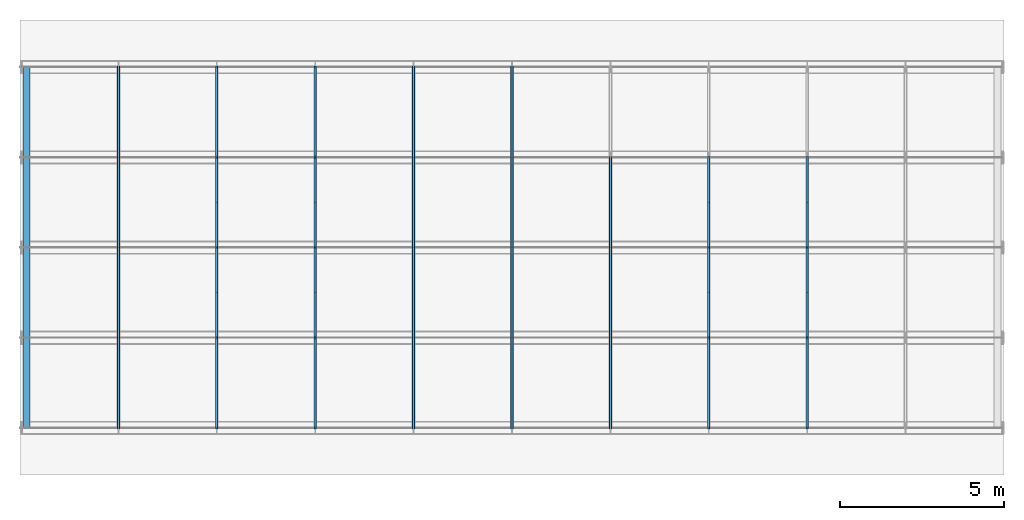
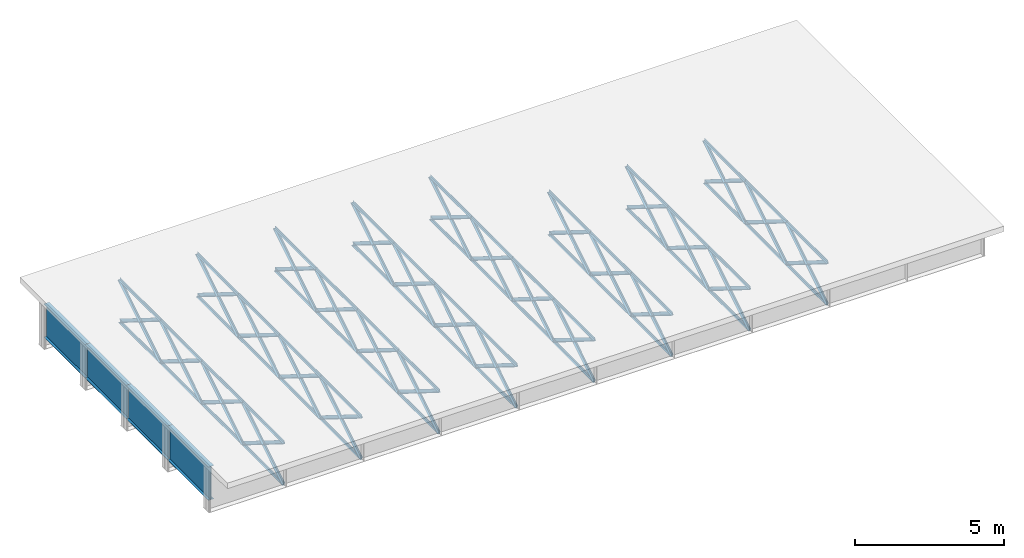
# One storey, part 1 of 17: 120 members.
"""IFC4 building model written with IfcOpenShell, lengths in metres."""

from ifc_helpers import new_model, si_unit, frame, origin, origin_with_axes, origin_2d_with_axis, place, context, subcontext, project, spatial, i_section, l_section, extrude, element, save


model = new_model("IFC4")

# Units and contexts
model_context = context("Model", 3, precision=1e-05, world=origin())
body_context = subcontext(model_context, "Body", "Model", "MODEL_VIEW")
ifc_project = project(units=[si_unit("LENGTHUNIT", "METRE"), si_unit("AREAUNIT", "SQUARE_METRE"), si_unit("VOLUMEUNIT", "CUBIC_METRE"), si_unit("PLANEANGLEUNIT", "RADIAN")], contexts=[model_context])

# Site, building, storey
site_placement = place(None, origin_with_axes())
site = spatial("IfcSite", under=ifc_project, at=site_placement, Name="Default Site")
building_placement = place(site_placement, origin_with_axes())
building = spatial("IfcBuilding", under=site, at=building_placement, Name="Bridge Structure")
storey_placement = place(building_placement, origin_with_axes())
storey = spatial("IfcBuildingStorey", under=building, at=storey_placement, Name="Superstructure")

# Members
for number, where, z_axis, x_axis, name in (
    (1, (0.2, -5.5, 0.1715), (0.0, 1.0, 0.0), (-1.0, 0.0, 0.0), "End Diaphragm"),
    (2, (0.2, -2.75, 0.1715), (0.0, 1.0, 0.0), (-1.0, 0.0, 0.0), "End Diaphragm"),
    (3, (0.2, 0.0, 0.1715), (0.0, 1.0, 0.0), (-1.0, 0.0, 0.0), "End Diaphragm"),
    (4, (0.2, 2.75, 0.1715), (0.0, 1.0, 0.0), (-1.0, 0.0, 0.0), "End Diaphragm"),
):
    element("IfcMember", number, at=place(storey_placement, frame(where, z_axis=z_axis, x_axis=x_axis)), inside=storey, Name=name, context=body_context, shape_type="SweptSolid", body=[
        extrude(i_section(OverallWidth=0.21, OverallDepth=1.371, WebThickness=0.014, FlangeThickness=0.012, at=origin_2d_with_axis()), origin_with_axes(), (0.0, 0.0, 1.0), 2.75),
    ])
for number, where, z_axis, x_axis, name in (
    (5, (3.0, -5.5, 0.857), (0.0, 0.8486564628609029, -0.5289444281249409), (-1.0, 0.0, 0.0), "Diagonal Brace"),
    (6, (3.0, -5.5, -0.857), (0.0, 0.8486564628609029, 0.5289444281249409), (-1.0, 0.0, 0.0), "Diagonal Brace"),
):
    element("IfcMember", number, at=place(storey_placement, frame(where, z_axis=z_axis, x_axis=x_axis)), inside=storey, Name=name, context=body_context, shape_type="SweptSolid", body=[
        extrude(l_section(Depth=0.128, Width=0.085, Thickness=0.008, at=origin_2d_with_axis()), origin_with_axes(), (0.0, 0.0, 1.0), 3.240416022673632),
    ])
for number, where, z_axis, x_axis, name in (
    (7, (3.0, -5.5, -0.857), (0.0, 1.0, 0.0), (-1.0, 0.0, 0.0), "Bottom Chord"),
    (8, (3.0, -5.5, 0.857), (0.0, 1.0, 0.0), (-1.0, 0.0, 0.0), "Top Chord"),
):
    element("IfcMember", number, at=place(storey_placement, frame(where, z_axis=z_axis, x_axis=x_axis)), inside=storey, Name=name, context=body_context, shape_type="SweptSolid", body=[
        extrude(l_section(Depth=0.111, Width=0.068, Thickness=0.008, at=origin_2d_with_axis()), origin_with_axes(), (0.0, 0.0, 1.0), 2.75),
    ])
for number, where, z_axis, x_axis, name in (
    (9, (3.0, -2.75, 0.857), (0.0, 0.8486564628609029, -0.5289444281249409), (-1.0, 0.0, 0.0), "Diagonal Brace"),
    (10, (3.0, -2.75, -0.857), (0.0, 0.8486564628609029, 0.5289444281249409), (-1.0, 0.0, 0.0), "Diagonal Brace"),
):
    element("IfcMember", number, at=place(storey_placement, frame(where, z_axis=z_axis, x_axis=x_axis)), inside=storey, Name=name, context=body_context, shape_type="SweptSolid", body=[
        extrude(l_section(Depth=0.128, Width=0.085, Thickness=0.008, at=origin_2d_with_axis()), origin_with_axes(), (0.0, 0.0, 1.0), 3.240416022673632),
    ])
for number, where, z_axis, x_axis, name in (
    (11, (3.0, -2.75, -0.857), (0.0, 1.0, 0.0), (-1.0, 0.0, 0.0), "Bottom Chord"),
    (12, (3.0, -2.75, 0.857), (0.0, 1.0, 0.0), (-1.0, 0.0, 0.0), "Top Chord"),
):
    element("IfcMember", number, at=place(storey_placement, frame(where, z_axis=z_axis, x_axis=x_axis)), inside=storey, Name=name, context=body_context, shape_type="SweptSolid", body=[
        extrude(l_section(Depth=0.111, Width=0.068, Thickness=0.008, at=origin_2d_with_axis()), origin_with_axes(), (0.0, 0.0, 1.0), 2.75),
    ])
for number, where, z_axis, x_axis, name in (
    (13, (3.0, 0.0, 0.857), (0.0, 0.8486564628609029, -0.5289444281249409), (-1.0, 0.0, 0.0), "Diagonal Brace"),
    (14, (3.0, 0.0, -0.857), (0.0, 0.8486564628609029, 0.5289444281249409), (-1.0, 0.0, 0.0), "Diagonal Brace"),
):
    element("IfcMember", number, at=place(storey_placement, frame(where, z_axis=z_axis, x_axis=x_axis)), inside=storey, Name=name, context=body_context, shape_type="SweptSolid", body=[
        extrude(l_section(Depth=0.128, Width=0.085, Thickness=0.008, at=origin_2d_with_axis()), origin_with_axes(), (0.0, 0.0, 1.0), 3.240416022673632),
    ])
for number, where, z_axis, x_axis, name in (
    (15, (3.0, 0.0, -0.857), (0.0, 1.0, 0.0), (-1.0, 0.0, 0.0), "Bottom Chord"),
    (16, (3.0, 0.0, 0.857), (0.0, 1.0, 0.0), (-1.0, 0.0, 0.0), "Top Chord"),
):
    element("IfcMember", number, at=place(storey_placement, frame(where, z_axis=z_axis, x_axis=x_axis)), inside=storey, Name=name, context=body_context, shape_type="SweptSolid", body=[
        extrude(l_section(Depth=0.111, Width=0.068, Thickness=0.008, at=origin_2d_with_axis()), origin_with_axes(), (0.0, 0.0, 1.0), 2.75),
    ])
for number, where, z_axis, x_axis, name in (
    (17, (3.0, 2.75, 0.857), (0.0, 0.8486564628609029, -0.5289444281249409), (-1.0, 0.0, 0.0), "Diagonal Brace"),
    (18, (3.0, 2.75, -0.857), (0.0, 0.8486564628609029, 0.5289444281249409), (-1.0, 0.0, 0.0), "Diagonal Brace"),
):
    element("IfcMember", number, at=place(storey_placement, frame(where, z_axis=z_axis, x_axis=x_axis)), inside=storey, Name=name, context=body_context, shape_type="SweptSolid", body=[
        extrude(l_section(Depth=0.128, Width=0.085, Thickness=0.008, at=origin_2d_with_axis()), origin_with_axes(), (0.0, 0.0, 1.0), 3.240416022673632),
    ])
for number, where, z_axis, x_axis, name in (
    (19, (3.0, 2.75, -0.857), (0.0, 1.0, 0.0), (-1.0, 0.0, 0.0), "Bottom Chord"),
    (20, (3.0, 2.75, 0.857), (0.0, 1.0, 0.0), (-1.0, 0.0, 0.0), "Top Chord"),
):
    element("IfcMember", number, at=place(storey_placement, frame(where, z_axis=z_axis, x_axis=x_axis)), inside=storey, Name=name, context=body_context, shape_type="SweptSolid", body=[
        extrude(l_section(Depth=0.111, Width=0.068, Thickness=0.008, at=origin_2d_with_axis()), origin_with_axes(), (0.0, 0.0, 1.0), 2.75),
    ])
for number, where, z_axis, x_axis, name in (
    (21, (6.0, -5.5, 0.857), (0.0, 0.8486564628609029, -0.5289444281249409), (-1.0, 0.0, 0.0), "Diagonal Brace"),
    (22, (6.0, -5.5, -0.857), (0.0, 0.8486564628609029, 0.5289444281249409), (-1.0, 0.0, 0.0), "Diagonal Brace"),
):
    element("IfcMember", number, at=place(storey_placement, frame(where, z_axis=z_axis, x_axis=x_axis)), inside=storey, Name=name, context=body_context, shape_type="SweptSolid", body=[
        extrude(l_section(Depth=0.128, Width=0.085, Thickness=0.008, at=origin_2d_with_axis()), origin_with_axes(), (0.0, 0.0, 1.0), 3.240416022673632),
    ])
for number, where, z_axis, x_axis, name in (
    (23, (6.0, -5.5, -0.857), (0.0, 1.0, 0.0), (-1.0, 0.0, 0.0), "Bottom Chord"),
    (24, (6.0, -5.5, 0.857), (0.0, 1.0, 0.0), (-1.0, 0.0, 0.0), "Top Chord"),
):
    element("IfcMember", number, at=place(storey_placement, frame(where, z_axis=z_axis, x_axis=x_axis)), inside=storey, Name=name, context=body_context, shape_type="SweptSolid", body=[
        extrude(l_section(Depth=0.111, Width=0.068, Thickness=0.008, at=origin_2d_with_axis()), origin_with_axes(), (0.0, 0.0, 1.0), 2.75),
    ])
for number, where, z_axis, x_axis, name in (
    (25, (6.0, -2.75, 0.857), (0.0, 0.8486564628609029, -0.5289444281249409), (-1.0, 0.0, 0.0), "Diagonal Brace"),
    (26, (6.0, -2.75, -0.857), (0.0, 0.8486564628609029, 0.5289444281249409), (-1.0, 0.0, 0.0), "Diagonal Brace"),
):
    element("IfcMember", number, at=place(storey_placement, frame(where, z_axis=z_axis, x_axis=x_axis)), inside=storey, Name=name, context=body_context, shape_type="SweptSolid", body=[
        extrude(l_section(Depth=0.128, Width=0.085, Thickness=0.008, at=origin_2d_with_axis()), origin_with_axes(), (0.0, 0.0, 1.0), 3.240416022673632),
    ])
for number, where, z_axis, x_axis, name in (
    (27, (6.0, -2.75, -0.857), (0.0, 1.0, 0.0), (-1.0, 0.0, 0.0), "Bottom Chord"),
    (28, (6.0, -2.75, 0.857), (0.0, 1.0, 0.0), (-1.0, 0.0, 0.0), "Top Chord"),
):
    element("IfcMember", number, at=place(storey_placement, frame(where, z_axis=z_axis, x_axis=x_axis)), inside=storey, Name=name, context=body_context, shape_type="SweptSolid", body=[
        extrude(l_section(Depth=0.111, Width=0.068, Thickness=0.008, at=origin_2d_with_axis()), origin_with_axes(), (0.0, 0.0, 1.0), 2.75),
    ])
for number, where, z_axis, x_axis, name in (
    (29, (6.0, 0.0, 0.857), (0.0, 0.8486564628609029, -0.5289444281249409), (-1.0, 0.0, 0.0), "Diagonal Brace"),
    (30, (6.0, 0.0, -0.857), (0.0, 0.8486564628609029, 0.5289444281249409), (-1.0, 0.0, 0.0), "Diagonal Brace"),
):
    element("IfcMember", number, at=place(storey_placement, frame(where, z_axis=z_axis, x_axis=x_axis)), inside=storey, Name=name, context=body_context, shape_type="SweptSolid", body=[
        extrude(l_section(Depth=0.128, Width=0.085, Thickness=0.008, at=origin_2d_with_axis()), origin_with_axes(), (0.0, 0.0, 1.0), 3.240416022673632),
    ])
for number, where, z_axis, x_axis, name in (
    (31, (6.0, 0.0, -0.857), (0.0, 1.0, 0.0), (-1.0, 0.0, 0.0), "Bottom Chord"),
    (32, (6.0, 0.0, 0.857), (0.0, 1.0, 0.0), (-1.0, 0.0, 0.0), "Top Chord"),
):
    element("IfcMember", number, at=place(storey_placement, frame(where, z_axis=z_axis, x_axis=x_axis)), inside=storey, Name=name, context=body_context, shape_type="SweptSolid", body=[
        extrude(l_section(Depth=0.111, Width=0.068, Thickness=0.008, at=origin_2d_with_axis()), origin_with_axes(), (0.0, 0.0, 1.0), 2.75),
    ])
for number, where, z_axis, x_axis, name in (
    (33, (6.0, 2.75, 0.857), (0.0, 0.8486564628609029, -0.5289444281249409), (-1.0, 0.0, 0.0), "Diagonal Brace"),
    (34, (6.0, 2.75, -0.857), (0.0, 0.8486564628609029, 0.5289444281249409), (-1.0, 0.0, 0.0), "Diagonal Brace"),
):
    element("IfcMember", number, at=place(storey_placement, frame(where, z_axis=z_axis, x_axis=x_axis)), inside=storey, Name=name, context=body_context, shape_type="SweptSolid", body=[
        extrude(l_section(Depth=0.128, Width=0.085, Thickness=0.008, at=origin_2d_with_axis()), origin_with_axes(), (0.0, 0.0, 1.0), 3.240416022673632),
    ])
for number, where, z_axis, x_axis, name in (
    (35, (6.0, 2.75, -0.857), (0.0, 1.0, 0.0), (-1.0, 0.0, 0.0), "Bottom Chord"),
    (36, (6.0, 2.75, 0.857), (0.0, 1.0, 0.0), (-1.0, 0.0, 0.0), "Top Chord"),
):
    element("IfcMember", number, at=place(storey_placement, frame(where, z_axis=z_axis, x_axis=x_axis)), inside=storey, Name=name, context=body_context, shape_type="SweptSolid", body=[
        extrude(l_section(Depth=0.111, Width=0.068, Thickness=0.008, at=origin_2d_with_axis()), origin_with_axes(), (0.0, 0.0, 1.0), 2.75),
    ])
for number, where, z_axis, x_axis, name in (
    (37, (9.0, -5.5, 0.857), (0.0, 0.8486564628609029, -0.5289444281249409), (-1.0, 0.0, 0.0), "Diagonal Brace"),
    (38, (9.0, -5.5, -0.857), (0.0, 0.8486564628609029, 0.5289444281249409), (-1.0, 0.0, 0.0), "Diagonal Brace"),
):
    element("IfcMember", number, at=place(storey_placement, frame(where, z_axis=z_axis, x_axis=x_axis)), inside=storey, Name=name, context=body_context, shape_type="SweptSolid", body=[
        extrude(l_section(Depth=0.128, Width=0.085, Thickness=0.008, at=origin_2d_with_axis()), origin_with_axes(), (0.0, 0.0, 1.0), 3.240416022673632),
    ])
for number, where, z_axis, x_axis, name in (
    (39, (9.0, -5.5, -0.857), (0.0, 1.0, 0.0), (-1.0, 0.0, 0.0), "Bottom Chord"),
    (40, (9.0, -5.5, 0.857), (0.0, 1.0, 0.0), (-1.0, 0.0, 0.0), "Top Chord"),
):
    element("IfcMember", number, at=place(storey_placement, frame(where, z_axis=z_axis, x_axis=x_axis)), inside=storey, Name=name, context=body_context, shape_type="SweptSolid", body=[
        extrude(l_section(Depth=0.111, Width=0.068, Thickness=0.008, at=origin_2d_with_axis()), origin_with_axes(), (0.0, 0.0, 1.0), 2.75),
    ])
for number, where, z_axis, x_axis, name in (
    (41, (9.0, -2.75, 0.857), (0.0, 0.8486564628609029, -0.5289444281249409), (-1.0, 0.0, 0.0), "Diagonal Brace"),
    (42, (9.0, -2.75, -0.857), (0.0, 0.8486564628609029, 0.5289444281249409), (-1.0, 0.0, 0.0), "Diagonal Brace"),
):
    element("IfcMember", number, at=place(storey_placement, frame(where, z_axis=z_axis, x_axis=x_axis)), inside=storey, Name=name, context=body_context, shape_type="SweptSolid", body=[
        extrude(l_section(Depth=0.128, Width=0.085, Thickness=0.008, at=origin_2d_with_axis()), origin_with_axes(), (0.0, 0.0, 1.0), 3.240416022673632),
    ])
for number, where, z_axis, x_axis, name in (
    (43, (9.0, -2.75, -0.857), (0.0, 1.0, 0.0), (-1.0, 0.0, 0.0), "Bottom Chord"),
    (44, (9.0, -2.75, 0.857), (0.0, 1.0, 0.0), (-1.0, 0.0, 0.0), "Top Chord"),
):
    element("IfcMember", number, at=place(storey_placement, frame(where, z_axis=z_axis, x_axis=x_axis)), inside=storey, Name=name, context=body_context, shape_type="SweptSolid", body=[
        extrude(l_section(Depth=0.111, Width=0.068, Thickness=0.008, at=origin_2d_with_axis()), origin_with_axes(), (0.0, 0.0, 1.0), 2.75),
    ])
for number, where, z_axis, x_axis, name in (
    (45, (9.0, 0.0, 0.857), (0.0, 0.8486564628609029, -0.5289444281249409), (-1.0, 0.0, 0.0), "Diagonal Brace"),
    (46, (9.0, 0.0, -0.857), (0.0, 0.8486564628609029, 0.5289444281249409), (-1.0, 0.0, 0.0), "Diagonal Brace"),
):
    element("IfcMember", number, at=place(storey_placement, frame(where, z_axis=z_axis, x_axis=x_axis)), inside=storey, Name=name, context=body_context, shape_type="SweptSolid", body=[
        extrude(l_section(Depth=0.128, Width=0.085, Thickness=0.008, at=origin_2d_with_axis()), origin_with_axes(), (0.0, 0.0, 1.0), 3.240416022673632),
    ])
for number, where, z_axis, x_axis, name in (
    (47, (9.0, 0.0, -0.857), (0.0, 1.0, 0.0), (-1.0, 0.0, 0.0), "Bottom Chord"),
    (48, (9.0, 0.0, 0.857), (0.0, 1.0, 0.0), (-1.0, 0.0, 0.0), "Top Chord"),
):
    element("IfcMember", number, at=place(storey_placement, frame(where, z_axis=z_axis, x_axis=x_axis)), inside=storey, Name=name, context=body_context, shape_type="SweptSolid", body=[
        extrude(l_section(Depth=0.111, Width=0.068, Thickness=0.008, at=origin_2d_with_axis()), origin_with_axes(), (0.0, 0.0, 1.0), 2.75),
    ])
for number, where, z_axis, x_axis, name in (
    (49, (9.0, 2.75, 0.857), (0.0, 0.8486564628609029, -0.5289444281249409), (-1.0, 0.0, 0.0), "Diagonal Brace"),
    (50, (9.0, 2.75, -0.857), (0.0, 0.8486564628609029, 0.5289444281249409), (-1.0, 0.0, 0.0), "Diagonal Brace"),
):
    element("IfcMember", number, at=place(storey_placement, frame(where, z_axis=z_axis, x_axis=x_axis)), inside=storey, Name=name, context=body_context, shape_type="SweptSolid", body=[
        extrude(l_section(Depth=0.128, Width=0.085, Thickness=0.008, at=origin_2d_with_axis()), origin_with_axes(), (0.0, 0.0, 1.0), 3.240416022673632),
    ])
for number, where, z_axis, x_axis, name in (
    (51, (9.0, 2.75, -0.857), (0.0, 1.0, 0.0), (-1.0, 0.0, 0.0), "Bottom Chord"),
    (52, (9.0, 2.75, 0.857), (0.0, 1.0, 0.0), (-1.0, 0.0, 0.0), "Top Chord"),
):
    element("IfcMember", number, at=place(storey_placement, frame(where, z_axis=z_axis, x_axis=x_axis)), inside=storey, Name=name, context=body_context, shape_type="SweptSolid", body=[
        extrude(l_section(Depth=0.111, Width=0.068, Thickness=0.008, at=origin_2d_with_axis()), origin_with_axes(), (0.0, 0.0, 1.0), 2.75),
    ])
for number, where, z_axis, x_axis, name in (
    (53, (12.0, -5.5, 0.857), (0.0, 0.8486564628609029, -0.5289444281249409), (-1.0, 0.0, 0.0), "Diagonal Brace"),
    (54, (12.0, -5.5, -0.857), (0.0, 0.8486564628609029, 0.5289444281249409), (-1.0, 0.0, 0.0), "Diagonal Brace"),
):
    element("IfcMember", number, at=place(storey_placement, frame(where, z_axis=z_axis, x_axis=x_axis)), inside=storey, Name=name, context=body_context, shape_type="SweptSolid", body=[
        extrude(l_section(Depth=0.128, Width=0.085, Thickness=0.008, at=origin_2d_with_axis()), origin_with_axes(), (0.0, 0.0, 1.0), 3.240416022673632),
    ])
for number, where, z_axis, x_axis, name in (
    (55, (12.0, -5.5, -0.857), (0.0, 1.0, 0.0), (-1.0, 0.0, 0.0), "Bottom Chord"),
    (56, (12.0, -5.5, 0.857), (0.0, 1.0, 0.0), (-1.0, 0.0, 0.0), "Top Chord"),
):
    element("IfcMember", number, at=place(storey_placement, frame(where, z_axis=z_axis, x_axis=x_axis)), inside=storey, Name=name, context=body_context, shape_type="SweptSolid", body=[
        extrude(l_section(Depth=0.111, Width=0.068, Thickness=0.008, at=origin_2d_with_axis()), origin_with_axes(), (0.0, 0.0, 1.0), 2.75),
    ])
for number, where, z_axis, x_axis, name in (
    (57, (12.0, -2.75, 0.857), (0.0, 0.8486564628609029, -0.5289444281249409), (-1.0, 0.0, 0.0), "Diagonal Brace"),
    (58, (12.0, -2.75, -0.857), (0.0, 0.8486564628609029, 0.5289444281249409), (-1.0, 0.0, 0.0), "Diagonal Brace"),
):
    element("IfcMember", number, at=place(storey_placement, frame(where, z_axis=z_axis, x_axis=x_axis)), inside=storey, Name=name, context=body_context, shape_type="SweptSolid", body=[
        extrude(l_section(Depth=0.128, Width=0.085, Thickness=0.008, at=origin_2d_with_axis()), origin_with_axes(), (0.0, 0.0, 1.0), 3.240416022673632),
    ])
for number, where, z_axis, x_axis, name in (
    (59, (12.0, -2.75, -0.857), (0.0, 1.0, 0.0), (-1.0, 0.0, 0.0), "Bottom Chord"),
    (60, (12.0, -2.75, 0.857), (0.0, 1.0, 0.0), (-1.0, 0.0, 0.0), "Top Chord"),
):
    element("IfcMember", number, at=place(storey_placement, frame(where, z_axis=z_axis, x_axis=x_axis)), inside=storey, Name=name, context=body_context, shape_type="SweptSolid", body=[
        extrude(l_section(Depth=0.111, Width=0.068, Thickness=0.008, at=origin_2d_with_axis()), origin_with_axes(), (0.0, 0.0, 1.0), 2.75),
    ])
for number, where, z_axis, x_axis, name in (
    (61, (12.0, 0.0, 0.857), (0.0, 0.8486564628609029, -0.5289444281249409), (-1.0, 0.0, 0.0), "Diagonal Brace"),
    (62, (12.0, 0.0, -0.857), (0.0, 0.8486564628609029, 0.5289444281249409), (-1.0, 0.0, 0.0), "Diagonal Brace"),
):
    element("IfcMember", number, at=place(storey_placement, frame(where, z_axis=z_axis, x_axis=x_axis)), inside=storey, Name=name, context=body_context, shape_type="SweptSolid", body=[
        extrude(l_section(Depth=0.128, Width=0.085, Thickness=0.008, at=origin_2d_with_axis()), origin_with_axes(), (0.0, 0.0, 1.0), 3.240416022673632),
    ])
for number, where, z_axis, x_axis, name in (
    (63, (12.0, 0.0, -0.857), (0.0, 1.0, 0.0), (-1.0, 0.0, 0.0), "Bottom Chord"),
    (64, (12.0, 0.0, 0.857), (0.0, 1.0, 0.0), (-1.0, 0.0, 0.0), "Top Chord"),
):
    element("IfcMember", number, at=place(storey_placement, frame(where, z_axis=z_axis, x_axis=x_axis)), inside=storey, Name=name, context=body_context, shape_type="SweptSolid", body=[
        extrude(l_section(Depth=0.111, Width=0.068, Thickness=0.008, at=origin_2d_with_axis()), origin_with_axes(), (0.0, 0.0, 1.0), 2.75),
    ])
for number, where, z_axis, x_axis, name in (
    (65, (12.0, 2.75, 0.857), (0.0, 0.8486564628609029, -0.5289444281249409), (-1.0, 0.0, 0.0), "Diagonal Brace"),
    (66, (12.0, 2.75, -0.857), (0.0, 0.8486564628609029, 0.5289444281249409), (-1.0, 0.0, 0.0), "Diagonal Brace"),
):
    element("IfcMember", number, at=place(storey_placement, frame(where, z_axis=z_axis, x_axis=x_axis)), inside=storey, Name=name, context=body_context, shape_type="SweptSolid", body=[
        extrude(l_section(Depth=0.128, Width=0.085, Thickness=0.008, at=origin_2d_with_axis()), origin_with_axes(), (0.0, 0.0, 1.0), 3.240416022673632),
    ])
for number, where, z_axis, x_axis, name in (
    (67, (12.0, 2.75, -0.857), (0.0, 1.0, 0.0), (-1.0, 0.0, 0.0), "Bottom Chord"),
    (68, (12.0, 2.75, 0.857), (0.0, 1.0, 0.0), (-1.0, 0.0, 0.0), "Top Chord"),
):
    element("IfcMember", number, at=place(storey_placement, frame(where, z_axis=z_axis, x_axis=x_axis)), inside=storey, Name=name, context=body_context, shape_type="SweptSolid", body=[
        extrude(l_section(Depth=0.111, Width=0.068, Thickness=0.008, at=origin_2d_with_axis()), origin_with_axes(), (0.0, 0.0, 1.0), 2.75),
    ])
for number, where, z_axis, x_axis, name in (
    (69, (15.0, -5.5, 0.857), (0.0, 0.8486564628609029, -0.5289444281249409), (-1.0, 0.0, 0.0), "Diagonal Brace"),
    (70, (15.0, -5.5, -0.857), (0.0, 0.8486564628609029, 0.5289444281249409), (-1.0, 0.0, 0.0), "Diagonal Brace"),
):
    element("IfcMember", number, at=place(storey_placement, frame(where, z_axis=z_axis, x_axis=x_axis)), inside=storey, Name=name, context=body_context, shape_type="SweptSolid", body=[
        extrude(l_section(Depth=0.128, Width=0.085, Thickness=0.008, at=origin_2d_with_axis()), origin_with_axes(), (0.0, 0.0, 1.0), 3.240416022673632),
    ])
for number, where, z_axis, x_axis, name in (
    (71, (15.0, -5.5, -0.857), (0.0, 1.0, 0.0), (-1.0, 0.0, 0.0), "Bottom Chord"),
    (72, (15.0, -5.5, 0.857), (0.0, 1.0, 0.0), (-1.0, 0.0, 0.0), "Top Chord"),
):
    element("IfcMember", number, at=place(storey_placement, frame(where, z_axis=z_axis, x_axis=x_axis)), inside=storey, Name=name, context=body_context, shape_type="SweptSolid", body=[
        extrude(l_section(Depth=0.111, Width=0.068, Thickness=0.008, at=origin_2d_with_axis()), origin_with_axes(), (0.0, 0.0, 1.0), 2.75),
    ])
for number, where, z_axis, x_axis, name in (
    (73, (15.0, -2.75, 0.857), (0.0, 0.8486564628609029, -0.5289444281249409), (-1.0, 0.0, 0.0), "Diagonal Brace"),
    (74, (15.0, -2.75, -0.857), (0.0, 0.8486564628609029, 0.5289444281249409), (-1.0, 0.0, 0.0), "Diagonal Brace"),
):
    element("IfcMember", number, at=place(storey_placement, frame(where, z_axis=z_axis, x_axis=x_axis)), inside=storey, Name=name, context=body_context, shape_type="SweptSolid", body=[
        extrude(l_section(Depth=0.128, Width=0.085, Thickness=0.008, at=origin_2d_with_axis()), origin_with_axes(), (0.0, 0.0, 1.0), 3.240416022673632),
    ])
for number, where, z_axis, x_axis, name in (
    (75, (15.0, -2.75, -0.857), (0.0, 1.0, 0.0), (-1.0, 0.0, 0.0), "Bottom Chord"),
    (76, (15.0, -2.75, 0.857), (0.0, 1.0, 0.0), (-1.0, 0.0, 0.0), "Top Chord"),
):
    element("IfcMember", number, at=place(storey_placement, frame(where, z_axis=z_axis, x_axis=x_axis)), inside=storey, Name=name, context=body_context, shape_type="SweptSolid", body=[
        extrude(l_section(Depth=0.111, Width=0.068, Thickness=0.008, at=origin_2d_with_axis()), origin_with_axes(), (0.0, 0.0, 1.0), 2.75),
    ])
for number, where, z_axis, x_axis, name in (
    (77, (15.0, 0.0, 0.857), (0.0, 0.8486564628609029, -0.5289444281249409), (-1.0, 0.0, 0.0), "Diagonal Brace"),
    (78, (15.0, 0.0, -0.857), (0.0, 0.8486564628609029, 0.5289444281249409), (-1.0, 0.0, 0.0), "Diagonal Brace"),
):
    element("IfcMember", number, at=place(storey_placement, frame(where, z_axis=z_axis, x_axis=x_axis)), inside=storey, Name=name, context=body_context, shape_type="SweptSolid", body=[
        extrude(l_section(Depth=0.128, Width=0.085, Thickness=0.008, at=origin_2d_with_axis()), origin_with_axes(), (0.0, 0.0, 1.0), 3.240416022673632),
    ])
for number, where, z_axis, x_axis, name in (
    (79, (15.0, 0.0, -0.857), (0.0, 1.0, 0.0), (-1.0, 0.0, 0.0), "Bottom Chord"),
    (80, (15.0, 0.0, 0.857), (0.0, 1.0, 0.0), (-1.0, 0.0, 0.0), "Top Chord"),
):
    element("IfcMember", number, at=place(storey_placement, frame(where, z_axis=z_axis, x_axis=x_axis)), inside=storey, Name=name, context=body_context, shape_type="SweptSolid", body=[
        extrude(l_section(Depth=0.111, Width=0.068, Thickness=0.008, at=origin_2d_with_axis()), origin_with_axes(), (0.0, 0.0, 1.0), 2.75),
    ])
for number, where, z_axis, x_axis, name in (
    (81, (15.0, 2.75, 0.857), (0.0, 0.8486564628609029, -0.5289444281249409), (-1.0, 0.0, 0.0), "Diagonal Brace"),
    (82, (15.0, 2.75, -0.857), (0.0, 0.8486564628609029, 0.5289444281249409), (-1.0, 0.0, 0.0), "Diagonal Brace"),
):
    element("IfcMember", number, at=place(storey_placement, frame(where, z_axis=z_axis, x_axis=x_axis)), inside=storey, Name=name, context=body_context, shape_type="SweptSolid", body=[
        extrude(l_section(Depth=0.128, Width=0.085, Thickness=0.008, at=origin_2d_with_axis()), origin_with_axes(), (0.0, 0.0, 1.0), 3.240416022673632),
    ])
for number, where, z_axis, x_axis, name in (
    (83, (15.0, 2.75, -0.857), (0.0, 1.0, 0.0), (-1.0, 0.0, 0.0), "Bottom Chord"),
    (84, (15.0, 2.75, 0.857), (0.0, 1.0, 0.0), (-1.0, 0.0, 0.0), "Top Chord"),
):
    element("IfcMember", number, at=place(storey_placement, frame(where, z_axis=z_axis, x_axis=x_axis)), inside=storey, Name=name, context=body_context, shape_type="SweptSolid", body=[
        extrude(l_section(Depth=0.111, Width=0.068, Thickness=0.008, at=origin_2d_with_axis()), origin_with_axes(), (0.0, 0.0, 1.0), 2.75),
    ])
for number, where, z_axis, x_axis, name in (
    (85, (18.0, -5.5, 0.857), (0.0, 0.8486564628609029, -0.5289444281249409), (-1.0, 0.0, 0.0), "Diagonal Brace"),
    (86, (18.0, -5.5, -0.857), (0.0, 0.8486564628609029, 0.5289444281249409), (-1.0, 0.0, 0.0), "Diagonal Brace"),
):
    element("IfcMember", number, at=place(storey_placement, frame(where, z_axis=z_axis, x_axis=x_axis)), inside=storey, Name=name, context=body_context, shape_type="SweptSolid", body=[
        extrude(l_section(Depth=0.128, Width=0.085, Thickness=0.008, at=origin_2d_with_axis()), origin_with_axes(), (0.0, 0.0, 1.0), 3.240416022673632),
    ])
for number, where, z_axis, x_axis, name in (
    (87, (18.0, -5.5, -0.857), (0.0, 1.0, 0.0), (-1.0, 0.0, 0.0), "Bottom Chord"),
    (88, (18.0, -5.5, 0.857), (0.0, 1.0, 0.0), (-1.0, 0.0, 0.0), "Top Chord"),
):
    element("IfcMember", number, at=place(storey_placement, frame(where, z_axis=z_axis, x_axis=x_axis)), inside=storey, Name=name, context=body_context, shape_type="SweptSolid", body=[
        extrude(l_section(Depth=0.111, Width=0.068, Thickness=0.008, at=origin_2d_with_axis()), origin_with_axes(), (0.0, 0.0, 1.0), 2.75),
    ])
for number, where, z_axis, x_axis, name in (
    (89, (18.0, -2.75, 0.857), (0.0, 0.8486564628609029, -0.5289444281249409), (-1.0, 0.0, 0.0), "Diagonal Brace"),
    (90, (18.0, -2.75, -0.857), (0.0, 0.8486564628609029, 0.5289444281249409), (-1.0, 0.0, 0.0), "Diagonal Brace"),
):
    element("IfcMember", number, at=place(storey_placement, frame(where, z_axis=z_axis, x_axis=x_axis)), inside=storey, Name=name, context=body_context, shape_type="SweptSolid", body=[
        extrude(l_section(Depth=0.128, Width=0.085, Thickness=0.008, at=origin_2d_with_axis()), origin_with_axes(), (0.0, 0.0, 1.0), 3.240416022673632),
    ])
for number, where, z_axis, x_axis, name in (
    (91, (18.0, -2.75, -0.857), (0.0, 1.0, 0.0), (-1.0, 0.0, 0.0), "Bottom Chord"),
    (92, (18.0, -2.75, 0.857), (0.0, 1.0, 0.0), (-1.0, 0.0, 0.0), "Top Chord"),
):
    element("IfcMember", number, at=place(storey_placement, frame(where, z_axis=z_axis, x_axis=x_axis)), inside=storey, Name=name, context=body_context, shape_type="SweptSolid", body=[
        extrude(l_section(Depth=0.111, Width=0.068, Thickness=0.008, at=origin_2d_with_axis()), origin_with_axes(), (0.0, 0.0, 1.0), 2.75),
    ])
for number, where, z_axis, x_axis, name in (
    (93, (18.0, 0.0, 0.857), (0.0, 0.8486564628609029, -0.5289444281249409), (-1.0, 0.0, 0.0), "Diagonal Brace"),
    (94, (18.0, 0.0, -0.857), (0.0, 0.8486564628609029, 0.5289444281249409), (-1.0, 0.0, 0.0), "Diagonal Brace"),
):
    element("IfcMember", number, at=place(storey_placement, frame(where, z_axis=z_axis, x_axis=x_axis)), inside=storey, Name=name, context=body_context, shape_type="SweptSolid", body=[
        extrude(l_section(Depth=0.128, Width=0.085, Thickness=0.008, at=origin_2d_with_axis()), origin_with_axes(), (0.0, 0.0, 1.0), 3.240416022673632),
    ])
for number, where, z_axis, x_axis, name in (
    (95, (18.0, 0.0, -0.857), (0.0, 1.0, 0.0), (-1.0, 0.0, 0.0), "Bottom Chord"),
    (96, (18.0, 0.0, 0.857), (0.0, 1.0, 0.0), (-1.0, 0.0, 0.0), "Top Chord"),
):
    element("IfcMember", number, at=place(storey_placement, frame(where, z_axis=z_axis, x_axis=x_axis)), inside=storey, Name=name, context=body_context, shape_type="SweptSolid", body=[
        extrude(l_section(Depth=0.111, Width=0.068, Thickness=0.008, at=origin_2d_with_axis()), origin_with_axes(), (0.0, 0.0, 1.0), 2.75),
    ])
for number, where, z_axis, x_axis, name in (
    (97, (21.0, -5.5, 0.857), (0.0, 0.8486564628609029, -0.5289444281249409), (-1.0, 0.0, 0.0), "Diagonal Brace"),
    (98, (21.0, -5.5, -0.857), (0.0, 0.8486564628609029, 0.5289444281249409), (-1.0, 0.0, 0.0), "Diagonal Brace"),
):
    element("IfcMember", number, at=place(storey_placement, frame(where, z_axis=z_axis, x_axis=x_axis)), inside=storey, Name=name, context=body_context, shape_type="SweptSolid", body=[
        extrude(l_section(Depth=0.128, Width=0.085, Thickness=0.008, at=origin_2d_with_axis()), origin_with_axes(), (0.0, 0.0, 1.0), 3.240416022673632),
    ])
for number, where, z_axis, x_axis, name in (
    (99, (21.0, -5.5, -0.857), (0.0, 1.0, 0.0), (-1.0, 0.0, 0.0), "Bottom Chord"),
    (100, (21.0, -5.5, 0.857), (0.0, 1.0, 0.0), (-1.0, 0.0, 0.0), "Top Chord"),
):
    element("IfcMember", number, at=place(storey_placement, frame(where, z_axis=z_axis, x_axis=x_axis)), inside=storey, Name=name, context=body_context, shape_type="SweptSolid", body=[
        extrude(l_section(Depth=0.111, Width=0.068, Thickness=0.008, at=origin_2d_with_axis()), origin_with_axes(), (0.0, 0.0, 1.0), 2.75),
    ])
for number, where, z_axis, x_axis, name in (
    (101, (21.0, -2.75, 0.857), (0.0, 0.8486564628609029, -0.5289444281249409), (-1.0, 0.0, 0.0), "Diagonal Brace"),
    (102, (21.0, -2.75, -0.857), (0.0, 0.8486564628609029, 0.5289444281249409), (-1.0, 0.0, 0.0), "Diagonal Brace"),
):
    element("IfcMember", number, at=place(storey_placement, frame(where, z_axis=z_axis, x_axis=x_axis)), inside=storey, Name=name, context=body_context, shape_type="SweptSolid", body=[
        extrude(l_section(Depth=0.128, Width=0.085, Thickness=0.008, at=origin_2d_with_axis()), origin_with_axes(), (0.0, 0.0, 1.0), 3.240416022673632),
    ])
for number, where, z_axis, x_axis, name in (
    (103, (21.0, -2.75, -0.857), (0.0, 1.0, 0.0), (-1.0, 0.0, 0.0), "Bottom Chord"),
    (104, (21.0, -2.75, 0.857), (0.0, 1.0, 0.0), (-1.0, 0.0, 0.0), "Top Chord"),
):
    element("IfcMember", number, at=place(storey_placement, frame(where, z_axis=z_axis, x_axis=x_axis)), inside=storey, Name=name, context=body_context, shape_type="SweptSolid", body=[
        extrude(l_section(Depth=0.111, Width=0.068, Thickness=0.008, at=origin_2d_with_axis()), origin_with_axes(), (0.0, 0.0, 1.0), 2.75),
    ])
for number, where, z_axis, x_axis, name in (
    (105, (21.0, 0.0, 0.857), (0.0, 0.8486564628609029, -0.5289444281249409), (-1.0, 0.0, 0.0), "Diagonal Brace"),
    (106, (21.0, 0.0, -0.857), (0.0, 0.8486564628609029, 0.5289444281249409), (-1.0, 0.0, 0.0), "Diagonal Brace"),
):
    element("IfcMember", number, at=place(storey_placement, frame(where, z_axis=z_axis, x_axis=x_axis)), inside=storey, Name=name, context=body_context, shape_type="SweptSolid", body=[
        extrude(l_section(Depth=0.128, Width=0.085, Thickness=0.008, at=origin_2d_with_axis()), origin_with_axes(), (0.0, 0.0, 1.0), 3.240416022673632),
    ])
for number, where, z_axis, x_axis, name in (
    (107, (21.0, 0.0, -0.857), (0.0, 1.0, 0.0), (-1.0, 0.0, 0.0), "Bottom Chord"),
    (108, (21.0, 0.0, 0.857), (0.0, 1.0, 0.0), (-1.0, 0.0, 0.0), "Top Chord"),
):
    element("IfcMember", number, at=place(storey_placement, frame(where, z_axis=z_axis, x_axis=x_axis)), inside=storey, Name=name, context=body_context, shape_type="SweptSolid", body=[
        extrude(l_section(Depth=0.111, Width=0.068, Thickness=0.008, at=origin_2d_with_axis()), origin_with_axes(), (0.0, 0.0, 1.0), 2.75),
    ])
for number, where, z_axis, x_axis, name in (
    (109, (24.0, -5.5, 0.857), (0.0, 0.8486564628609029, -0.5289444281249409), (-1.0, 0.0, 0.0), "Diagonal Brace"),
    (110, (24.0, -5.5, -0.857), (0.0, 0.8486564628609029, 0.5289444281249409), (-1.0, 0.0, 0.0), "Diagonal Brace"),
):
    element("IfcMember", number, at=place(storey_placement, frame(where, z_axis=z_axis, x_axis=x_axis)), inside=storey, Name=name, context=body_context, shape_type="SweptSolid", body=[
        extrude(l_section(Depth=0.128, Width=0.085, Thickness=0.008, at=origin_2d_with_axis()), origin_with_axes(), (0.0, 0.0, 1.0), 3.240416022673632),
    ])
for number, where, z_axis, x_axis, name in (
    (111, (24.0, -5.5, -0.857), (0.0, 1.0, 0.0), (-1.0, 0.0, 0.0), "Bottom Chord"),
    (112, (24.0, -5.5, 0.857), (0.0, 1.0, 0.0), (-1.0, 0.0, 0.0), "Top Chord"),
):
    element("IfcMember", number, at=place(storey_placement, frame(where, z_axis=z_axis, x_axis=x_axis)), inside=storey, Name=name, context=body_context, shape_type="SweptSolid", body=[
        extrude(l_section(Depth=0.111, Width=0.068, Thickness=0.008, at=origin_2d_with_axis()), origin_with_axes(), (0.0, 0.0, 1.0), 2.75),
    ])
for number, where, z_axis, x_axis, name in (
    (113, (24.0, -2.75, 0.857), (0.0, 0.8486564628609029, -0.5289444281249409), (-1.0, 0.0, 0.0), "Diagonal Brace"),
    (114, (24.0, -2.75, -0.857), (0.0, 0.8486564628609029, 0.5289444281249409), (-1.0, 0.0, 0.0), "Diagonal Brace"),
):
    element("IfcMember", number, at=place(storey_placement, frame(where, z_axis=z_axis, x_axis=x_axis)), inside=storey, Name=name, context=body_context, shape_type="SweptSolid", body=[
        extrude(l_section(Depth=0.128, Width=0.085, Thickness=0.008, at=origin_2d_with_axis()), origin_with_axes(), (0.0, 0.0, 1.0), 3.240416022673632),
    ])
for number, where, z_axis, x_axis, name in (
    (115, (24.0, -2.75, -0.857), (0.0, 1.0, 0.0), (-1.0, 0.0, 0.0), "Bottom Chord"),
    (116, (24.0, -2.75, 0.857), (0.0, 1.0, 0.0), (-1.0, 0.0, 0.0), "Top Chord"),
):
    element("IfcMember", number, at=place(storey_placement, frame(where, z_axis=z_axis, x_axis=x_axis)), inside=storey, Name=name, context=body_context, shape_type="SweptSolid", body=[
        extrude(l_section(Depth=0.111, Width=0.068, Thickness=0.008, at=origin_2d_with_axis()), origin_with_axes(), (0.0, 0.0, 1.0), 2.75),
    ])
for number, where, z_axis, x_axis, name in (
    (117, (24.0, 0.0, 0.857), (0.0, 0.8486564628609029, -0.5289444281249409), (-1.0, 0.0, 0.0), "Diagonal Brace"),
    (118, (24.0, 0.0, -0.857), (0.0, 0.8486564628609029, 0.5289444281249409), (-1.0, 0.0, 0.0), "Diagonal Brace"),
):
    element("IfcMember", number, at=place(storey_placement, frame(where, z_axis=z_axis, x_axis=x_axis)), inside=storey, Name=name, context=body_context, shape_type="SweptSolid", body=[
        extrude(l_section(Depth=0.128, Width=0.085, Thickness=0.008, at=origin_2d_with_axis()), origin_with_axes(), (0.0, 0.0, 1.0), 3.240416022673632),
    ])
for number, where, z_axis, x_axis, name in (
    (119, (24.0, 0.0, -0.857), (0.0, 1.0, 0.0), (-1.0, 0.0, 0.0), "Bottom Chord"),
    (120, (24.0, 0.0, 0.857), (0.0, 1.0, 0.0), (-1.0, 0.0, 0.0), "Top Chord"),
):
    element("IfcMember", number, at=place(storey_placement, frame(where, z_axis=z_axis, x_axis=x_axis)), inside=storey, Name=name, context=body_context, shape_type="SweptSolid", body=[
        extrude(l_section(Depth=0.111, Width=0.068, Thickness=0.008, at=origin_2d_with_axis()), origin_with_axes(), (0.0, 0.0, 1.0), 2.75),
    ])

save(model, "model.ifc")
